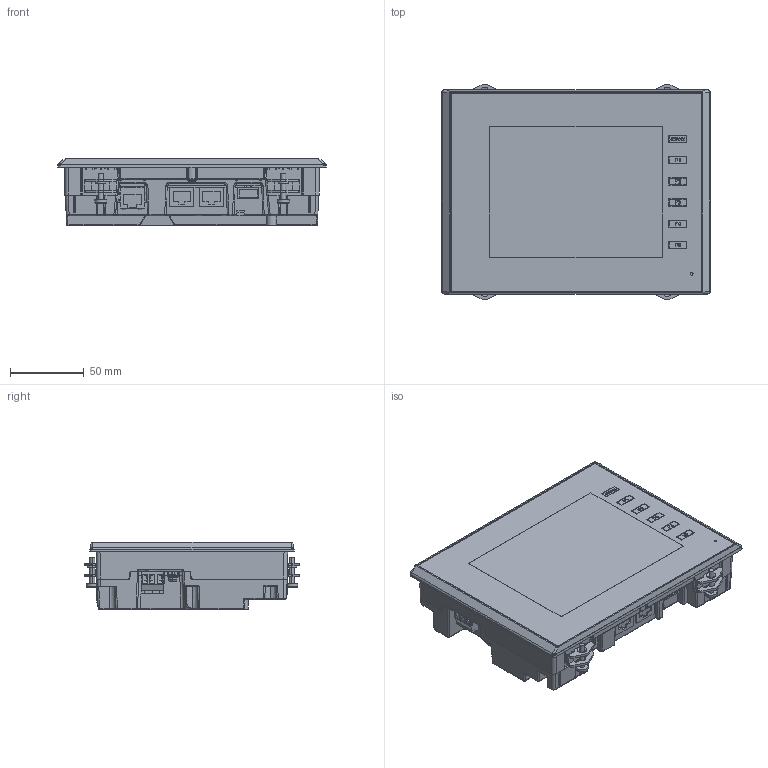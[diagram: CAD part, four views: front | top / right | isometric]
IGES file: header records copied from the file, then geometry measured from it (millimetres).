
Start section:  PTC IGES file: ts2060i_3d-data.igs
Global section: file name: ts2060i_3d-data.igs; native system: Pro/ENGINEER by Parametric Technology Corporation; preprocessor: 2011330; author: oda; organization: Unknown; date: 20160506.095739; units: millimetre
Bounding box: 182.5 x 146.7 x 45.8 mm (x, y, z)
Surface area: 94155.2 mm2 (no closed solid volume)
Topology: 0 solids, 0 shells, 2577 faces, 13858 edges, 13854 vertices
Faces by surface type: bspline 1968, revolution 607, extrusion 2
